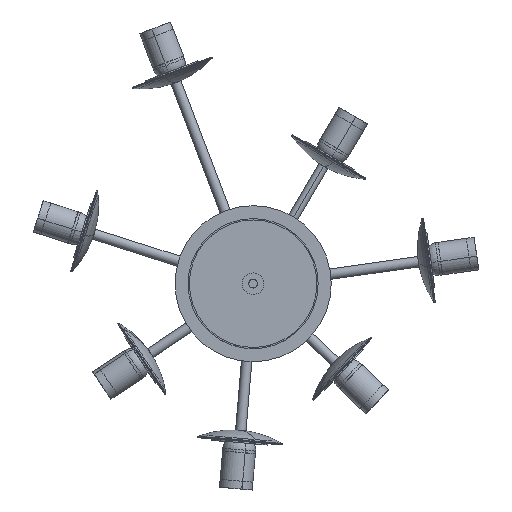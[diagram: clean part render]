
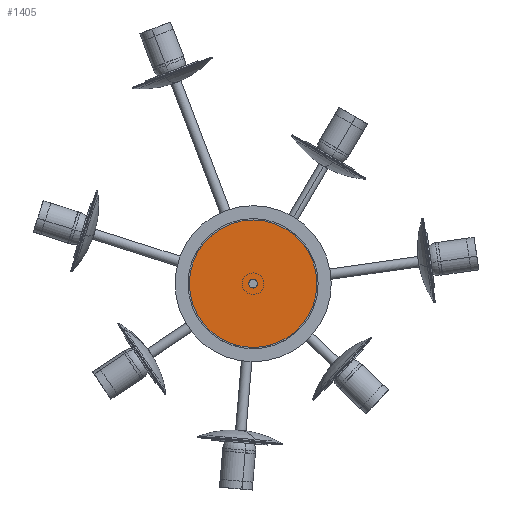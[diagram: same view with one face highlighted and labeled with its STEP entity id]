
A CAD part, top view. The second image highlights one B-rep face of the part: STEP entity #1405.
In plain terms, the highlighted planar face has unit normal (0, 0, 1).
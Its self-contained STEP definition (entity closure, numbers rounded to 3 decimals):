
#379 = VERTEX_POINT ( 'NONE', #969 ) ;
#633 = VERTEX_POINT ( 'NONE', #4338 ) ;
#869 = CIRCLE ( 'NONE', #3970, 5. ) ;
#969 = CARTESIAN_POINT ( 'NONE',  ( -5., 0., 1.5 ) ) ;
#997 = FACE_BOUND ( 'NONE', #3841, .T. ) ;
#1003 = DIRECTION ( 'NONE',  ( 0., 0., -1. ) ) ;
#1004 = DIRECTION ( 'NONE',  ( -1., 0., 0. ) ) ;
#1020 = EDGE_CURVE ( 'NONE', #379, #633, #3516, .T. ) ;
#1032 = CARTESIAN_POINT ( 'NONE',  ( 0., 0., 1.5 ) ) ;
#1037 = CARTESIAN_POINT ( 'NONE',  ( 0., 0., 1.5 ) ) ;
#1114 = CARTESIAN_POINT ( 'NONE',  ( -73.5, 0., 1.5 ) ) ;
#1128 = CIRCLE ( 'NONE', #2516, 73.5 ) ;
#1254 = DIRECTION ( 'NONE',  ( -1., 0., 0. ) ) ;
#1344 = DIRECTION ( 'NONE',  ( 1., 0., 0. ) ) ;
#1405 = ADVANCED_FACE ( 'NONE', ( #997, #4248 ), #3070, .T. ) ;
#1489 = DIRECTION ( 'NONE',  ( -1., 0., 0. ) ) ;
#1574 = CIRCLE ( 'NONE', #3192, 73.5 ) ;
#1606 = AXIS2_PLACEMENT_3D ( 'NONE', #2642, #3392, #1344 ) ;
#1658 = CARTESIAN_POINT ( 'NONE',  ( 0., 0., 1.5 ) ) ;
#2109 = ORIENTED_EDGE ( 'NONE', *, *, #1020, .T. ) ;
#2357 = EDGE_CURVE ( 'NONE', #633, #379, #869, .T. ) ;
#2505 = VERTEX_POINT ( 'NONE', #1114 ) ;
#2516 = AXIS2_PLACEMENT_3D ( 'NONE', #1032, #4308, #1004 ) ;
#2642 = CARTESIAN_POINT ( 'NONE',  ( 0., 73.5, 1.5 ) ) ;
#2736 = AXIS2_PLACEMENT_3D ( 'NONE', #4679, #1003, #4411 ) ;
#2831 = CARTESIAN_POINT ( 'NONE',  ( 73.5, 0., 1.5 ) ) ;
#2960 = ORIENTED_EDGE ( 'NONE', *, *, #2357, .T. ) ;
#3026 = ORIENTED_EDGE ( 'NONE', *, *, #4015, .F. ) ;
#3070 = PLANE ( 'NONE',  #1606 ) ;
#3162 = DIRECTION ( 'NONE',  ( 0., 0., -1. ) ) ;
#3192 = AXIS2_PLACEMENT_3D ( 'NONE', #1658, #4625, #1254 ) ;
#3392 = DIRECTION ( 'NONE',  ( 0., 0., 1. ) ) ;
#3516 = CIRCLE ( 'NONE', #2736, 5. ) ;
#3782 = EDGE_CURVE ( 'NONE', #2505, #4498, #1574, .T. ) ;
#3791 = EDGE_LOOP ( 'NONE', ( #4480, #3026 ) ) ;
#3841 = EDGE_LOOP ( 'NONE', ( #2109, #2960 ) ) ;
#3970 = AXIS2_PLACEMENT_3D ( 'NONE', #1037, #3162, #1489 ) ;
#4015 = EDGE_CURVE ( 'NONE', #4498, #2505, #1128, .T. ) ;
#4248 = FACE_OUTER_BOUND ( 'NONE', #3791, .T. ) ;
#4308 = DIRECTION ( 'NONE',  ( 0., 0., -1. ) ) ;
#4338 = CARTESIAN_POINT ( 'NONE',  ( 5., 0., 1.5 ) ) ;
#4411 = DIRECTION ( 'NONE',  ( -1., 0., 0. ) ) ;
#4480 = ORIENTED_EDGE ( 'NONE', *, *, #3782, .F. ) ;
#4498 = VERTEX_POINT ( 'NONE', #2831 ) ;
#4625 = DIRECTION ( 'NONE',  ( 0., 0., -1. ) ) ;
#4679 = CARTESIAN_POINT ( 'NONE',  ( 0., 0., 1.5 ) ) ;
